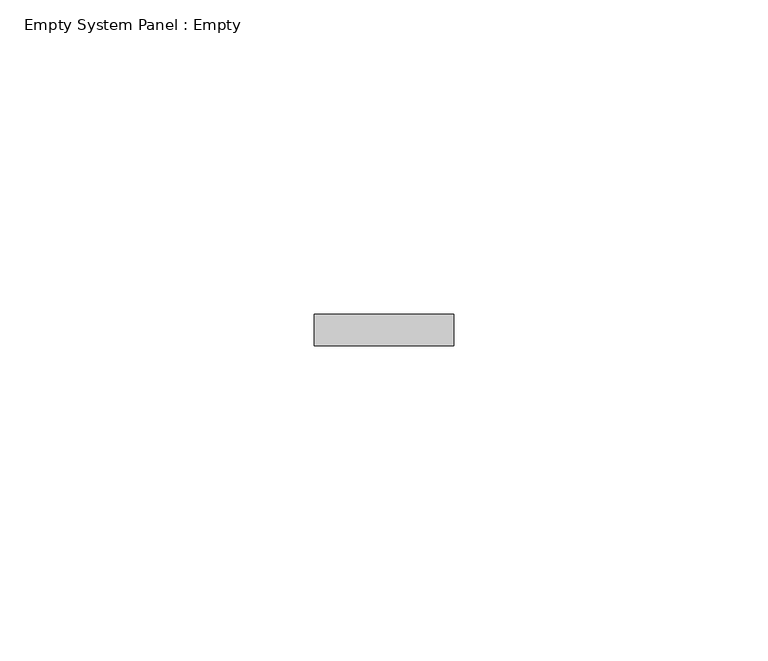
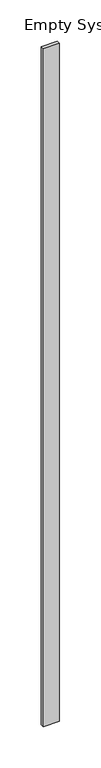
"""IFC4 building model written with IfcOpenShell, lengths in millimetres: plate geometry, Empty System Panel : Empty."""

from ifc_helpers import new_model, si_unit, origin, origin_with_axes, place, context, project, spatial, polyline, outline, extrude, source, transform, mapped, element, save


def empty_system_panel_empty_de31d617(model_context):
    return source(origin(), model_context, "Body", "SweptSolid", [
        extrude(outline(polyline([(11.1050986, 97.5), (-11.1050986, 97.5), (-11.1050986, 102.5), (11.1050986, 102.5), (11.1050986, 97.5)])), origin_with_axes(), (0.0, 0.0, 1.0), 1000.0),
    ])


if __name__ == "__main__":
    model = new_model("IFC4")
    model_context = context("Model", 3, world=origin())
    ifc_project = project(units=[si_unit("LENGTHUNIT", "METRE", prefix="MILLI")], contexts=[model_context])
    site = spatial("IfcSite", under=ifc_project)
    building = spatial("IfcBuilding", under=site)
    placement = place(None, origin())
    empty_system_panel_empty_shape = empty_system_panel_empty_de31d617(model_context)
    element("IfcPlate", 1, ObjectType="Empty System Panel : Empty", at=placement, inside=building, context=model_context, shape_type="MappedRepresentation", body=[
        mapped(empty_system_panel_empty_shape, transform((0.0, 0.0, 0.0), x_axis=(1.0, 0.0, 0.0), y_axis=(0.0, 1.0, 0.0), z_axis=(0.0, 0.0, 1.0))),
    ])
    save(model, "model.ifc")
